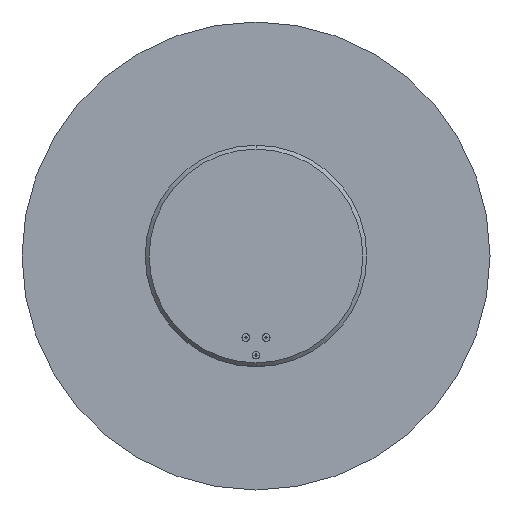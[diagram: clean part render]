
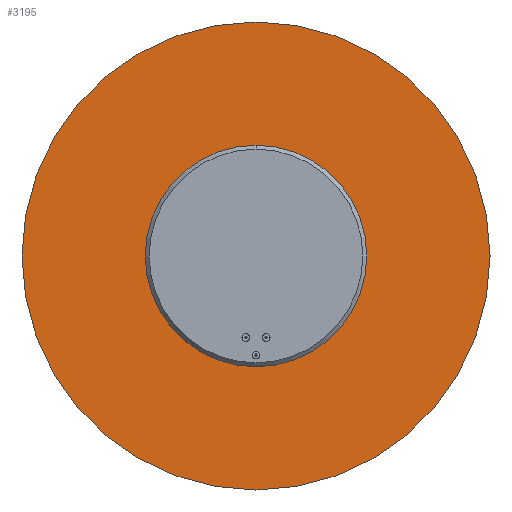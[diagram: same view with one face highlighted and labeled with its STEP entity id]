
A CAD part, front view. The second image highlights one B-rep face of the part: STEP entity #3195.
In plain terms, the highlighted planar face has unit normal (0, -1, 0).
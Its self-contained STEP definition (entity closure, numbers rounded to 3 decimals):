
#298 = PLANE ( 'NONE',  #6707 ) ;
#302 = EDGE_LOOP ( 'NONE', ( #431, #354 ) ) ;
#354 = ORIENTED_EDGE ( 'NONE', *, *, #6526, .F. ) ;
#413 = AXIS2_PLACEMENT_3D ( 'NONE', #3958, #828, #5084 ) ;
#431 = ORIENTED_EDGE ( 'NONE', *, *, #3192, .F. ) ;
#641 = CARTESIAN_POINT ( 'NONE',  ( 0., 0., -600. ) ) ;
#828 = DIRECTION ( 'NONE',  ( 0., 1., 0. ) ) ;
#1282 = CARTESIAN_POINT ( 'NONE',  ( 0., 0., 600. ) ) ;
#1856 = DIRECTION ( 'NONE',  ( 0., 0., 1. ) ) ;
#1918 = DIRECTION ( 'NONE',  ( 0., 1., 0. ) ) ;
#2409 = DIRECTION ( 'NONE',  ( 0., 0., 1. ) ) ;
#2532 = AXIS2_PLACEMENT_3D ( 'NONE', #3501, #6208, #2409 ) ;
#2847 = CIRCLE ( 'NONE', #413, 600. ) ;
#3192 = EDGE_CURVE ( 'NONE', #3526, #5783, #2847, .T. ) ;
#3195 = ADVANCED_FACE ( 'NONE', ( #6166 ), #298, .F. ) ;
#3501 = CARTESIAN_POINT ( 'NONE',  ( 0., 0., 0. ) ) ;
#3526 = VERTEX_POINT ( 'NONE', #641 ) ;
#3958 = CARTESIAN_POINT ( 'NONE',  ( 0., 0., 0. ) ) ;
#4518 = CARTESIAN_POINT ( 'NONE',  ( 0., 0., 0. ) ) ;
#5084 = DIRECTION ( 'NONE',  ( 0., 0., 1. ) ) ;
#5783 = VERTEX_POINT ( 'NONE', #1282 ) ;
#6166 = FACE_OUTER_BOUND ( 'NONE', #302, .T. ) ;
#6208 = DIRECTION ( 'NONE',  ( 0., 1., 0. ) ) ;
#6526 = EDGE_CURVE ( 'NONE', #5783, #3526, #6820, .T. ) ;
#6707 = AXIS2_PLACEMENT_3D ( 'NONE', #4518, #1918, #1856 ) ;
#6820 = CIRCLE ( 'NONE', #2532, 600. ) ;
